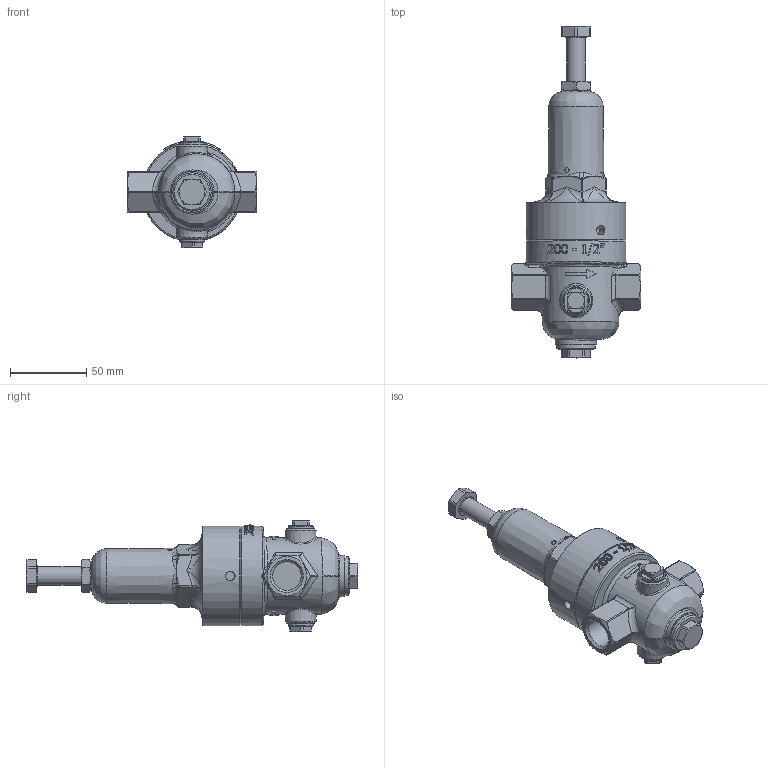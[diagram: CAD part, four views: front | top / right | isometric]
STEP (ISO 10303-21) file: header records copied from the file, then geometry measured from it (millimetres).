
FILE_DESCRIPTION(/* description */ (''),/* implementation_level */ '2;1');
FILE_NAME(/* name */ 'U:/AirCom-Produktdokumentation/Druckregler/RWI/Zeichnungen/CAD-Aircom/3D/B-RWI-04I.step',/* time_stamp */ '2022-07-01T14:00:07+02:00',/* author */ (''),/* organization */ (''),/* preprocessor_version */ 'ST-DEVELOPER v19',/* originating_system */ 'Autodesk Translation Framework v11.7.0.108',/* authorisation */ '');
FILE_SCHEMA (('AUTOMOTIVE_DESIGN { 1 0 10303 214 3 1 1 }'));
Length unit declared in the file: millimetre
Products named in the file (1): 022602_step
Bounding box: 85 x 217.23 x 73 mm (x, y, z)
Volume: 335037.8 mm3; surface area: 40798.9 mm2
Topology: 1 solids, 2 shells, 463 faces, 1170 edges, 693 vertices
Faces by surface type: bspline 181, plane 126, cylinder 78, cone 59, torus 13, sphere 6
Full cylindrical faces by diameter (mm): 3 x1, 6.1 x3, 8 x1, 8.5 x1, 12 x1, 14 x1, 16.5 x2, 18.631 x2, 25 x1, 27 x1, 50 x1, 65 x2
Entity records: 23689 total; most frequent: CARTESIAN_POINT 13360, ORIENTED_EDGE 2228, DIRECTION 1759, EDGE_CURVE 1114, AXIS2_PLACEMENT_3D 728, VERTEX_POINT 692, EDGE_LOOP 500, FACE_OUTER_BOUND 462
